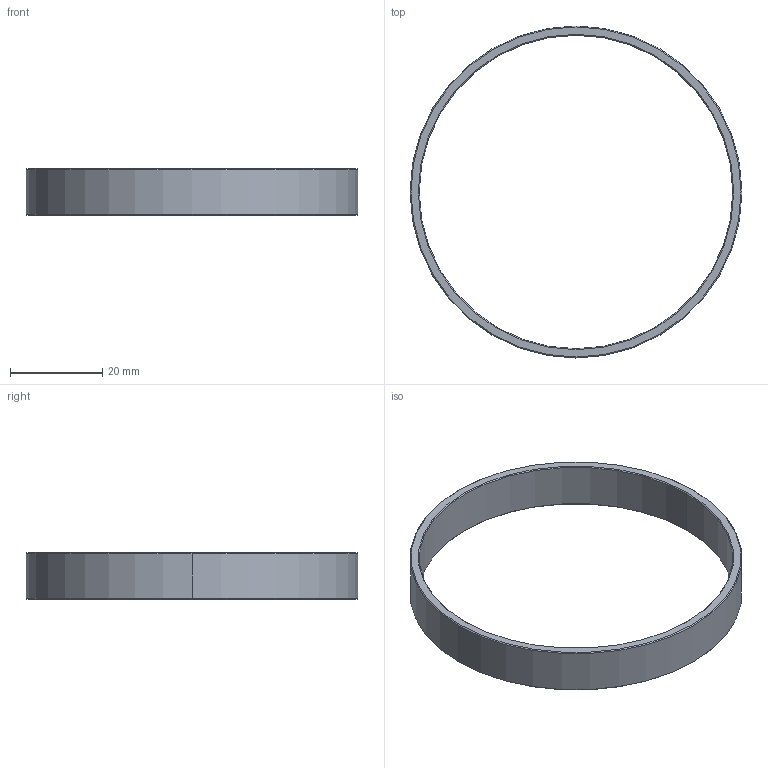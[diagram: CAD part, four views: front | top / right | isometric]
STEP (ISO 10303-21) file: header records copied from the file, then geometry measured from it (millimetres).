
FILE_DESCRIPTION (( 'STEP AP203' ), '1' );
FILE_NAME ('YWSD-2026-03-01-04=004 路杶II.STEP', '2026-07-24T07:33:58', ( 'Windows 蚚誧' ), ( '' ), 'SwSTEP 2.0', 'SolidWorks 2024', '' );
FILE_SCHEMA (( 'CONFIG_CONTROL_DESIGN' ));
Length unit declared in the file: millimetre
Products named in the file (1): YWSD-2026-03-01-04=004 隔套II
Bounding box: 72 x 72 x 10 mm (x, y, z)
Volume: 4380.6 mm3; surface area: 5174.8 mm2
Topology: 1 solids, 1 shells, 14 faces, 28 edges, 16 vertices
Faces by surface type: cone 8, cylinder 4, plane 2
Entity records: 445 total; most frequent: DIRECTION 74, CARTESIAN_POINT 59, ORIENTED_EDGE 56, AXIS2_PLACEMENT_3D 31, EDGE_CURVE 28, VERTEX_POINT 16, EDGE_LOOP 16, CIRCLE 16
